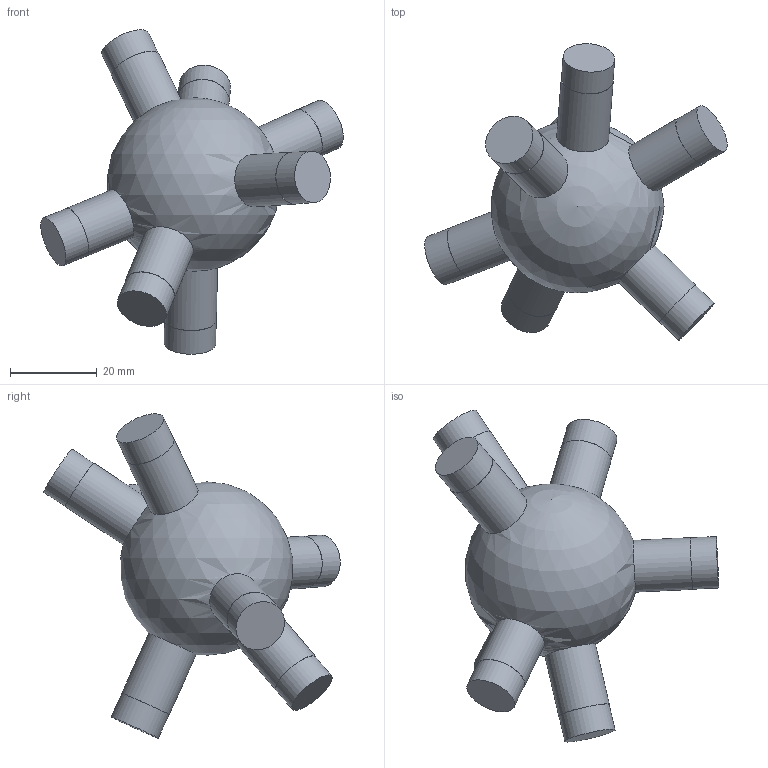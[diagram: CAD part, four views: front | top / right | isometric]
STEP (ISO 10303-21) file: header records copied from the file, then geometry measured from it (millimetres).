
FILE_DESCRIPTION(('Open CASCADE Model'),'2;1');
FILE_NAME('Open CASCADE Shape Model','2026-10-21T12:47:57',('Author'),( 'Open CASCADE'),'Open CASCADE STEP processor 7.9','Open CASCADE 7.9' ,'Unknown');
FILE_SCHEMA(('AUTOMOTIVE_DESIGN { 1 0 10303 214 1 1 1 1 }'));
Length unit declared in the file: millimetre
Products named in the file (1): Open CASCADE STEP translator 7.9 88
Bounding box: 69.77 x 68.34 x 74.79 mm (x, y, z)
Volume: 48892.5 mm3; surface area: 10270.9 mm2
Topology: 1 solids, 1 shells, 29 faces, 45 edges, 30 vertices
Faces by surface type: cylinder 14, plane 14, sphere 1
Full cylindrical faces by diameter (mm): 11.9 x7, 12 x7
Entity records: 1673 total; most frequent: CARTESIAN_POINT 668, DIRECTION 207, ORIENTED_EDGE 84, PCURVE 84, DEFINITIONAL_REPRESENTATION 84, LINE 70, VECTOR 70, AXIS2_PLACEMENT_3D 58
